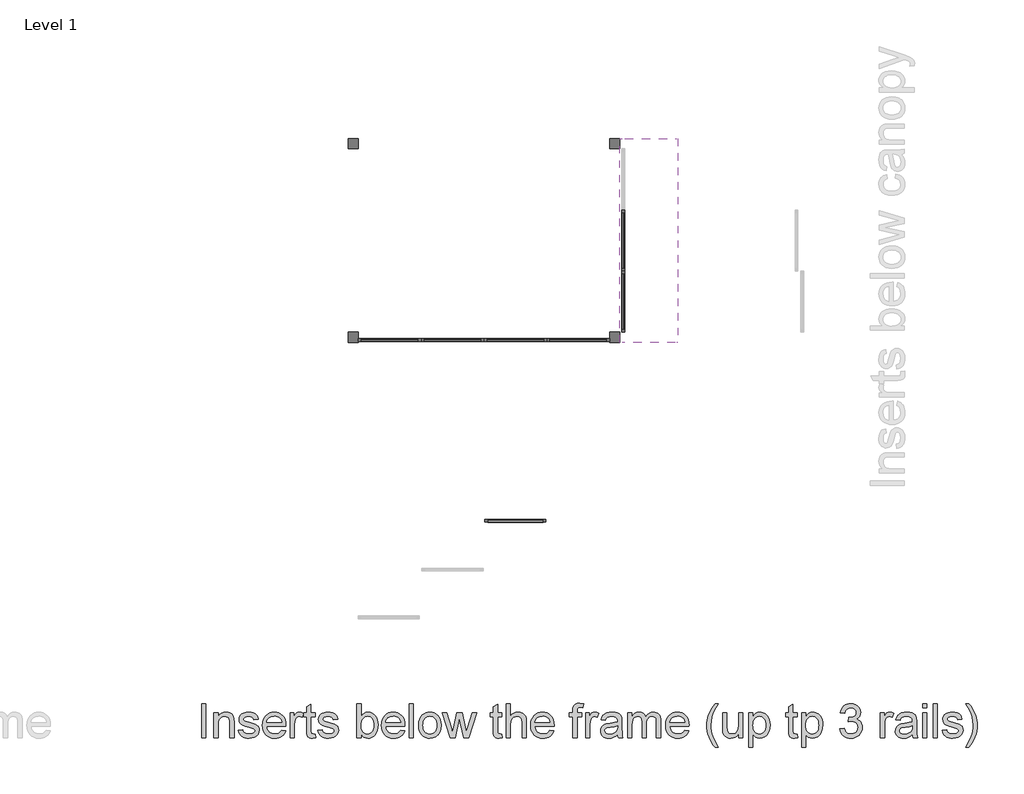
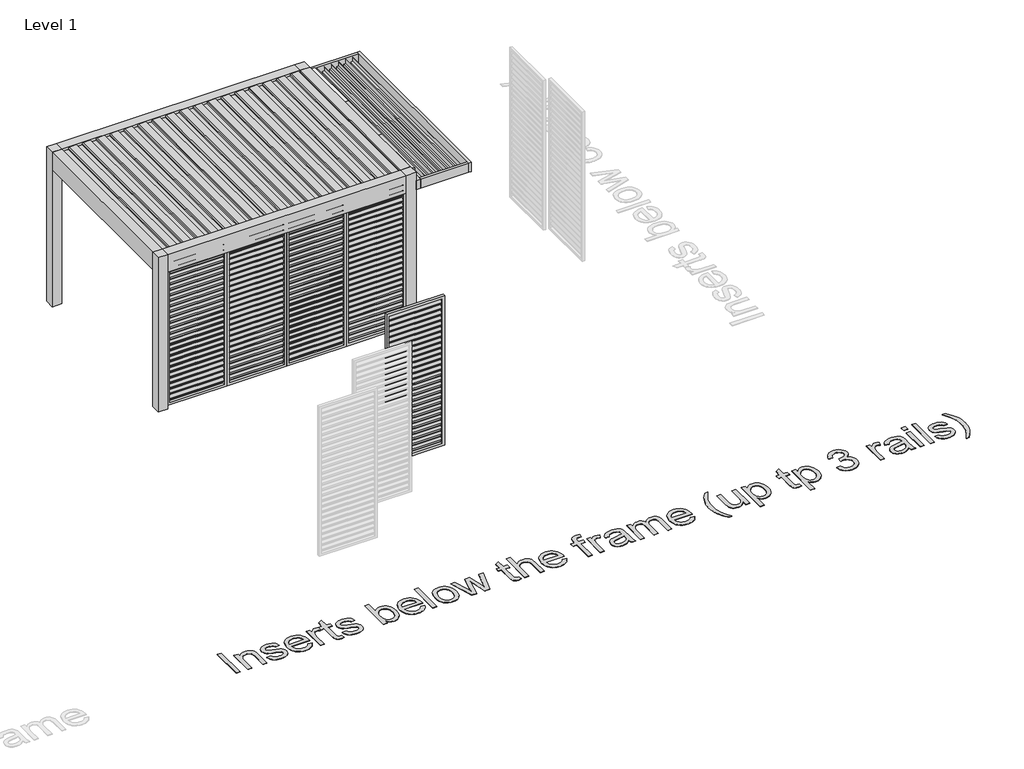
# One storey, part 39 of 80: 10 proxies.
"""IFC4 building model written with IfcOpenShell, lengths in millimetres."""

from ifc_helpers import new_model, si_unit, origin, origin_with_axes, place, context, project, spatial, polyline, outline, extrude, transform, mapped, element, save
from components import generic_models_3681f2a6, generic_models_eb283adb, generic_models_fa1a9668, generic_models_aca7f397

model = new_model("IFC4")

# Units and contexts
model_context = context("Model", 3, world=origin())
ifc_project = project(units=[si_unit("LENGTHUNIT", "METRE", prefix="MILLI")], contexts=[model_context])

# Site, building, storey
site = spatial("IfcSite", under=ifc_project)
building = spatial("IfcBuilding", under=site)
storey = spatial("IfcBuildingStorey", under=building, Name="Level 1", Elevation=0.0)

# Proxies
placement = place(None, origin())
generic_models_shape = generic_models_3681f2a6(model_context)
element("IfcBuildingElementProxy", 1, Name="Renson_Amani_Canopy : Renson_Amani_Canopy", ObjectType="Renson_Amani_Canopy : Renson_Amani_Canopy", at=placement, inside=storey, context=model_context, shape_type="MappedRepresentation", body=[
    mapped(generic_models_shape, transform((461860.5749426, -41059.318181, 2400.0), x_axis=(0.0, 1.0, 0.0), y_axis=(-1.0, 0.0, 0.0), z_axis=(0.0, 0.0, 1.0))),
])
generic_models_2_shape = generic_models_eb283adb(model_context)
element("IfcBuildingElementProxy", 2, Name="Renson_Amani_Patio_Cover : Renson_Amani_Patio_Cover", ObjectType="Renson_Amani_Patio_Cover : Renson_Amani_Patio_Cover", at=placement, inside=storey, context=model_context, shape_type="MappedRepresentation", body=[
    mapped(generic_models_2_shape, transform((459860.5749426, -39559.318181, 0.0), x_axis=(1.0, 0.0, 0.0), y_axis=(0.0, 1.0, 0.0), z_axis=(0.0, 0.0, 1.0))),
])
generic_models_3_shape = generic_models_fa1a9668(model_context)
element("IfcBuildingElementProxy", 3, Name="Renson_Amani_Loggia_Paro_Aluminium_Fix : Renson_Amani_Loggia_Paro_Aluminium_Fix", ObjectType="Renson_Amani_Loggia_Paro_Aluminium_Fix : Renson_Amani_Loggia_Paro_Aluminium_Fix", at=placement, inside=storey, context=model_context, shape_type="MappedRepresentation", body=[
    mapped(generic_models_3_shape, transform((461910.5749426, -39559.318181, 0.0), x_axis=(0.0, -1.0, 0.0), y_axis=(1.0, 0.0, 0.0), z_axis=(0.0, 0.0, 1.0))),
])
element("IfcBuildingElementProxy", 4, Name="Renson_Amani_Loggia_Paro_Aluminium_Fix : Renson_Amani_Loggia_Paro_Aluminium_Fix", ObjectType="Renson_Amani_Loggia_Paro_Aluminium_Fix : Renson_Amani_Loggia_Paro_Aluminium_Fix", at=placement, inside=storey, context=model_context, shape_type="MappedRepresentation", body=[
    mapped(generic_models_3_shape, transform((461910.5749426, -40459.318181, 0.0), x_axis=(0.0, -1.0, 0.0), y_axis=(1.0, 0.0, 0.0), z_axis=(0.0, 0.0, 1.0))),
])
element("IfcBuildingElementProxy", 5, Name="Renson_Amani_Loggia_Paro_Aluminium_Fix : Renson_Amani_Loggia_Paro_Aluminium_Fix", ObjectType="Renson_Amani_Loggia_Paro_Aluminium_Fix : Renson_Amani_Loggia_Paro_Aluminium_Fix", at=placement, inside=storey, context=model_context, shape_type="MappedRepresentation", body=[
    mapped(generic_models_3_shape, transform((460323.5579528, -43687.443424, 0.0), x_axis=(1.0, 0.0, 0.0), y_axis=(0.0, 1.0, 0.0), z_axis=(0.0, 0.0, 1.0))),
])
generic_models_4_shape = generic_models_aca7f397(model_context)
element("IfcBuildingElementProxy", 6, Name="Renson_Amani_Loggia_Paro_Aluminium_Fix : Renson_Amani_Loggia_Paro_Aluminium_Fix", ObjectType="Renson_Amani_Loggia_Paro_Aluminium_Fix : Renson_Amani_Loggia_Paro_Aluminium_Fix", at=placement, inside=storey, context=model_context, shape_type="MappedRepresentation", body=[
    mapped(generic_models_4_shape, transform((458473.0749426, -41025.318181, 0.0), x_axis=(1.0, 0.0, 0.0), y_axis=(0.0, 1.0, 0.0), z_axis=(0.0, 0.0, 1.0))),
])
element("IfcBuildingElementProxy", 7, Name="Renson_Amani_Loggia_Paro_Aluminium_Fix : Renson_Amani_Loggia_Paro_Aluminium_Fix", ObjectType="Renson_Amani_Loggia_Paro_Aluminium_Fix : Renson_Amani_Loggia_Paro_Aluminium_Fix", at=placement, inside=storey, context=model_context, shape_type="MappedRepresentation", body=[
    mapped(generic_models_4_shape, transform((459398.0749426, -41025.318181, 0.0), x_axis=(1.0, 0.0, 0.0), y_axis=(0.0, 1.0, 0.0), z_axis=(0.0, 0.0, 1.0))),
])
element("IfcBuildingElementProxy", 8, Name="Renson_Amani_Loggia_Paro_Aluminium_Fix : Renson_Amani_Loggia_Paro_Aluminium_Fix", ObjectType="Renson_Amani_Loggia_Paro_Aluminium_Fix : Renson_Amani_Loggia_Paro_Aluminium_Fix", at=placement, inside=storey, context=model_context, shape_type="MappedRepresentation", body=[
    mapped(generic_models_4_shape, transform((460323.0749426, -41025.318181, 0.0), x_axis=(1.0, 0.0, 0.0), y_axis=(0.0, 1.0, 0.0), z_axis=(0.0, 0.0, 1.0))),
])
element("IfcBuildingElementProxy", 9, Name="Renson_Amani_Loggia_Paro_Aluminium_Fix : Renson_Amani_Loggia_Paro_Aluminium_Fix", ObjectType="Renson_Amani_Loggia_Paro_Aluminium_Fix : Renson_Amani_Loggia_Paro_Aluminium_Fix", at=placement, inside=storey, context=model_context, shape_type="MappedRepresentation", body=[
    mapped(generic_models_4_shape, transform((461248.0749426, -41025.318181, 0.0), x_axis=(1.0, 0.0, 0.0), y_axis=(0.0, 1.0, 0.0), z_axis=(0.0, 0.0, 1.0))),
])
element("IfcBuildingElementProxy", 10, Name="500mm Arial", ObjectType="500mm Arial", at=placement, inside=storey, context=model_context, shape_type="SweptSolid", body=[
    extrude(outline(polyline([(455706.2654479, -46882.3382736), (455706.2654479, -46380.0567228), (455769.0506417, -46380.0567228), (455769.0506417, -46882.3382736), (455706.2654479, -46882.3382736)])), origin_with_axes(), (0.0, 0.0, 1.0), 5.0),
    extrude(outline(polyline([(455886.7728802, -46882.3382736), (455886.7728802, -46513.4752597), (455949.558074, -46513.4752597), (455949.558074, -46564.9787391), (455971.3704107, -46539.0124016), (455997.5666744, -46520.4650176), (456028.1468653, -46509.3365873), (456063.1109832, -46505.6271105), (456094.0590561, -46508.6161517), (456122.4012981, -46517.5832753), (456146.0377163, -46531.409507), (456162.8683176, -46548.9758723), (456174.2879879, -46570.2363859), (456181.691613, -46595.1450627), (456185.002551, -46655.8455919), (456185.002551, -46882.3382736), (456122.2173571, -46882.3382736), (456122.2173571, -46664.3068778), (456120.408604, -46631.8412917), (456114.9823445, -46608.7566965), (456104.9728886, -46592.2173351), (456089.4145459, -46579.3874505), (456069.4722761, -46571.1560909), (456046.3110388, -46568.4123043), (456027.2463208, -46569.9528102), (456009.5381677, -46574.5743278), (455993.1865794, -46582.276857), (455978.191556, -46593.060398), (455965.6644076, -46608.151224), (455956.7164445, -46628.7756084), (455951.3476667, -46654.9335511), (455949.558074, -46686.6250521), (455949.558074, -46882.3382736), (455886.7728802, -46882.3382736)])), origin_with_axes(), (0.0, 0.0, 1.0), 5.0),
    extrude(outline(polyline([(456247.7877448, -46772.4641843), (456310.5729386, -46764.6160351), (456320.4750957, -46791.4714208), (456339.6356163, -46811.2144212), (456368.1771277, -46823.354527), (456406.2222574, -46827.4012289), (456443.8075346, -46823.6917522), (456470.2337246, -46812.5633218), (456485.8687093, -46796.4378277), (456491.0803709, -46777.7371596), (456485.8380525, -46761.7342928), (456470.1110972, -46749.5328733), (456405.4864934, -46731.6292829), (456348.1888727, -46715.0592647), (456310.9408206, -46700.9111363), (456287.0131625, -46685.4754209), (456269.6767235, -46665.0426417), (456259.1461014, -46640.9157142), (456255.635894, -46614.3975537), (456258.4563227, -46590.0713568), (456266.9176086, -46567.6152267), (456280.2533309, -46547.9182115), (456297.6970688, -46531.8693595), (456315.0335078, -46521.767933), (456337.6122653, -46513.2913187), (456363.7165585, -46507.5431626), (456391.6296049, -46505.6271105), (456432.4951632, -46508.7081222), (456468.0264326, -46517.9511573), (456496.5986009, -46532.4518393), (456516.5868559, -46551.3057916), (456529.8306078, -46575.9079), (456538.1692663, -46607.6530505), (456475.3840725, -46615.5011997), (456467.4592812, -46595.7428709), (456451.7783111, -46580.8589785), (456428.1878782, -46571.5239729), (456396.5346982, -46568.4123043), (456360.4822627, -46571.3860171), (456336.4473056, -46580.3071555), (456322.9276423, -46593.1830254), (456318.4210879, -46608.0209325), (456320.2911547, -46617.6778349), (456325.9013551, -46626.2924049), (456335.4969438, -46633.98727), (456349.3231755, -46640.1492934), (456403.4018288, -46653.5156726), (456495.5562686, -46683.0688595), (456519.8977939, -46697.2016595), (456538.3532073, -46716.5461211), (456549.9874754, -46741.1635579), (456553.8655648, -46771.1152837), (456549.3130251, -46802.0786849), (456535.655406, -46831.2026762), (456513.4138737, -46856.2033235), (456483.1095944, -46874.7966927), (456446.5053359, -46886.3389903), (456405.3638661, -46890.1864228), (456371.572372, -46888.3316844), (456342.0575061, -46882.7674692), (456316.8192684, -46873.4937773), (456295.8576588, -46860.5106085), (456278.7358176, -46843.8792767), (456265.0168849, -46823.6610953), (456254.7008606, -46799.8560646), (456247.7877448, -46772.4641843)])), origin_with_axes(), (0.0, 0.0, 1.0), 5.0),
    extrude(outline(polyline([(456882.7520685, -46772.4641843), (456944.310989, -46780.3123336), (456934.8725166, -46804.9680915), (456922.1307704, -46826.6961218), (456906.0857504, -46845.4964246), (456886.7374568, -46861.3689998), (456864.2851587, -46873.9766224), (456838.9281258, -46882.9820671), (456810.6663579, -46888.3853339), (456779.4998552, -46890.1864228), (456740.5426847, -46887.0785864), (456705.8314856, -46877.755077), (456675.3662579, -46862.2158948), (456649.1470015, -46840.4610398), (456628.0627647, -46813.0959843), (456613.0025955, -46780.7262008), (456603.966494, -46743.3516894), (456600.9544602, -46700.9724499), (456603.9971508, -46657.1561715), (456613.1252228, -46618.5362262), (456628.3386762, -46585.1126141), (456649.6375109, -46556.8853352), (456675.7877894, -46534.4598619), (456705.5555741, -46518.4416667), (456738.9408652, -46508.8307495), (456775.9436625, -46505.6271105), (456811.7546755, -46508.8230853), (456844.1397874, -46518.4110098), (456873.0989982, -46534.390884), (456898.6323079, -46556.7627078), (456919.4751222, -46584.9286731), (456934.3628467, -46618.2909715), (456943.2954814, -46656.8496031), (456946.2730263, -46700.6045679), (456945.9051443, -46717.5271397), (456663.739654, -46717.5271397), (456667.3763208, -46742.5814364), (456674.6075013, -46764.5240646), (456685.4331954, -46783.3550242), (456699.8534032, -46799.0743153), (456717.071047, -46811.46734), (456736.2890491, -46820.3195005), (456757.5074096, -46825.6307968), (456780.7261285, -46827.4012289), (456814.1420764, -46824.1209478), (456842.285049, -46814.2801045), (456865.1550464, -46797.2655622), (456882.7520685, -46772.4641843)]), holes=[polyline([(456663.739654, -46654.7419459), (456883.4878325, -46654.7419459), (456874.9958897, -46621.5712526), (456858.3492295, -46597.842864), (456841.2273883, -46584.9669941), (456821.7449709, -46575.7699442), (456799.9019775, -46570.2517143), (456775.6984079, -46568.4123043), (456733.37665, -46574.2830879), (456714.9633897, -46581.6215672), (456698.3818752, -46591.8954384), (456684.4675052, -46604.6295203), (456674.0556783, -46619.3486323), (456667.1463946, -46636.0527741), (456663.739654, -46654.7419459)])]), origin_with_axes(), (0.0, 0.0, 1.0), 5.0),
    extrude(outline(polyline([(457377.921234, -46829.9764029), (457385.7693832, -46884.1776835), (457338.8031152, -46890.1864228), (457308.6674484, -46887.580592), (457286.1959899, -46879.7630996), (457270.3157504, -46867.7149643), (457259.9537409, -46852.4172046), (457254.2515699, -46826.1442988), (457252.3508463, -46781.1707249), (457252.3508463, -46576.2604536), (457205.2619509, -46576.2604536), (457205.2619509, -46525.0022289), (457205.2619509, -46513.4752597), (457252.3508463, -46513.4752597), (457252.3508463, -46423.8346802), (457315.1360401, -46386.9238534), (457315.1360401, -46513.4752597), (457377.921234, -46513.4752597), (457377.921234, -46576.2604536), (457315.1360401, -46576.2604536), (457315.1360401, -46779.3313149), (457318.4469781, -46811.7049305), (457329.1768696, -46823.170586), (457350.575339, -46827.4012289), (457377.921234, -46829.9764029)])), origin_with_axes(), (0.0, 0.0, 1.0), 5.0),
    extrude(outline(polyline([(457009.0582202, -46882.3382736), (457009.0582202, -46513.4752597), (457063.9952648, -46513.4752597), (457063.9952648, -46568.0444223), (457084.2900882, -46536.4065708), (457102.9907563, -46517.7672163), (457121.752738, -46508.662137), (457142.2315024, -46505.6271105), (457173.501472, -46510.4708901), (457205.2619509, -46525.0022289), (457184.2926772, -46581.2881742), (457162.2197575, -46571.6312718), (457140.1468378, -46568.4123043), (457121.4001844, -46571.5086445), (457104.6462252, -46580.7976648), (457091.1112335, -46595.5742583), (457082.0214825, -46615.1333177), (457074.3879311, -46650.2047346), (457071.843414, -46688.4644621), (457071.843414, -46882.3382736), (457009.0582202, -46882.3382736)])), origin_with_axes(), (0.0, 0.0, 1.0), 5.0),
    extrude(outline(polyline([(457417.1619801, -46772.4641843), (457479.947174, -46764.6160351), (457489.849331, -46791.4714208), (457509.0098516, -46811.2144212), (457537.5513631, -46823.354527), (457575.5964927, -46827.4012289), (457613.1817699, -46823.6917522), (457639.6079599, -46812.5633218), (457655.2429447, -46796.4378277), (457660.4546063, -46777.7371596), (457655.2122879, -46761.7342928), (457639.4853326, -46749.5328733), (457574.8607287, -46731.6292829), (457517.563108, -46715.0592647), (457480.315056, -46700.9111363), (457456.3873979, -46685.4754209), (457439.0509589, -46665.0426417), (457428.5203367, -46640.9157142), (457425.0101294, -46614.3975537), (457427.830558, -46590.0713568), (457436.2918439, -46567.6152267), (457449.6275662, -46547.9182115), (457467.0713042, -46531.8693595), (457484.4077432, -46521.767933), (457506.9865006, -46513.2913187), (457533.0907939, -46507.5431626), (457561.0038403, -46505.6271105), (457601.8693986, -46508.7081222), (457637.4006679, -46517.9511573), (457665.9728362, -46532.4518393), (457685.9610913, -46551.3057916), (457699.2048431, -46575.9079), (457707.5435017, -46607.6530505), (457644.7583078, -46615.5011997), (457636.8335165, -46595.7428709), (457621.1525465, -46580.8589785), (457597.5621135, -46571.5239729), (457565.9089335, -46568.4123043), (457529.856498, -46571.3860171), (457505.821541, -46580.3071555), (457492.3018777, -46593.1830254), (457487.7953232, -46608.0209325), (457489.66539, -46617.6778349), (457495.2755904, -46626.2924049), (457504.8711792, -46633.98727), (457518.6974108, -46640.1492934), (457572.7760641, -46653.5156726), (457664.9305039, -46683.0688595), (457689.2720292, -46697.2016595), (457707.7274427, -46716.5461211), (457719.3617108, -46741.1635579), (457723.2398001, -46771.1152837), (457718.6872604, -46802.0786849), (457705.0296414, -46831.2026762), (457682.7881091, -46856.2033235), (457652.4838297, -46874.7966927), (457615.8795712, -46886.3389903), (457574.7381014, -46890.1864228), (457540.9466073, -46888.3316844), (457511.4317414, -46882.7674692), (457486.1935037, -46873.4937773), (457465.2318942, -46860.5106085), (457448.110053, -46843.8792767), (457434.3911202, -46823.6610953), (457424.075096, -46799.8560646), (457417.1619801, -46772.4641843)])), origin_with_axes(), (0.0, 0.0, 1.0), 5.0),
    extrude(outline(polyline([(458052.8620678, -46882.3382736), (457990.076874, -46882.3382736), (457990.076874, -46380.0567228), (458052.8620678, -46380.0567228), (458052.8620678, -46566.3276397), (458073.5094448, -46539.7711582), (458096.8239662, -46520.8022428), (458122.8056321, -46509.4208936), (458151.4544425, -46505.6271105), (458183.7974013, -46509.0453474), (458214.3622637, -46519.300058), (458241.4015903, -46535.7474489), (458263.1679417, -46557.7437265), (458280.2284692, -46585.074293), (458293.1503243, -46617.5245507), (458301.2897135, -46653.7455988), (458304.0028432, -46692.3885367), (458301.1939109, -46736.9789002), (458292.7671139, -46776.204318), (458278.7224523, -46810.0647899), (458259.0599261, -46838.5603161), (458235.4579968, -46861.1467378), (458209.5951262, -46877.2798961), (458181.4713141, -46886.9597911), (458151.0865605, -46890.1864228), (458121.4950525, -46886.0247577), (458095.2604677, -46873.5397625), (458072.3828062, -46852.7314372), (458052.8620678, -46823.5997817), (458052.8620678, -46882.3382736)]), holes=[polyline([(458052.8620678, -46695.3315927), (458057.1540244, -46747.6934633), (458062.5189702, -46767.5284342), (458070.0298942, -46783.1327622), (458085.2433476, -46802.5002164), (458102.924676, -46816.3341123), (458123.0738794, -46824.6344498), (458145.6909579, -46827.4012289), (458164.4682681, -46825.3625496), (458181.9273344, -46819.2465114), (458198.068157, -46809.0531144), (458212.8907357, -46794.7823587), (458225.2837604, -46776.4725652), (458234.1359209, -46754.1620551), (458239.4472172, -46727.8508282), (458241.2176493, -46697.5388847), (458239.5200272, -46666.6521255), (458234.4271608, -46640.0879797), (458225.9390502, -46617.8464474), (458214.0556954, -46599.9275286), (458199.7657791, -46586.139618), (458184.0579843, -46576.2911104), (458166.932311, -46570.3820059), (458148.3887592, -46568.4123043), (458129.611449, -46570.4509837), (458112.1523827, -46576.5670219), (458096.0115602, -46586.7604189), (458081.1889814, -46601.0311746), (458068.7959567, -46619.1570271), (458059.9437962, -46640.9157142), (458054.6324999, -46666.3072361), (458052.8620678, -46695.3315927)])]), origin_with_axes(), (0.0, 0.0, 1.0), 5.0),
    extrude(outline(polyline([(458632.8893469, -46772.4641843), (458694.4482674, -46780.3123336), (458685.009795, -46804.9680915), (458672.2680488, -46826.6961218), (458656.2230288, -46845.4964246), (458636.8747351, -46861.3689998), (458614.4224371, -46873.9766224), (458589.0654042, -46882.9820671), (458560.8036363, -46888.3853339), (458529.6371336, -46890.1864228), (458490.6799631, -46887.0785864), (458455.968764, -46877.755077), (458425.5035363, -46862.2158948), (458399.2842799, -46840.4610398), (458378.2000431, -46813.0959843), (458363.1398739, -46780.7262008), (458354.1037724, -46743.3516894), (458351.0917386, -46700.9724499), (458354.1344292, -46657.1561715), (458363.2625012, -46618.5362262), (458378.4759546, -46585.1126141), (458399.7747893, -46556.8853352), (458425.9250677, -46534.4598619), (458455.6928525, -46518.4416667), (458489.0781436, -46508.8307495), (458526.0809409, -46505.6271105), (458561.8919539, -46508.8230853), (458594.2770658, -46518.4110098), (458623.2362766, -46534.390884), (458648.7695863, -46556.7627078), (458669.6124006, -46584.9286731), (458684.5001251, -46618.2909715), (458693.4327598, -46656.8496031), (458696.4103047, -46700.6045679), (458696.0424227, -46717.5271397), (458413.8769324, -46717.5271397), (458417.5135992, -46742.5814364), (458424.7447797, -46764.5240646), (458435.5704738, -46783.3550242), (458449.9906816, -46799.0743153), (458467.2083254, -46811.46734), (458486.4263275, -46820.3195005), (458507.644688, -46825.6307968), (458530.8634069, -46827.4012289), (458564.2793548, -46824.1209478), (458592.4223274, -46814.2801045), (458615.2923248, -46797.2655622), (458632.8893469, -46772.4641843)]), holes=[polyline([(458413.8769324, -46654.7419459), (458633.6251109, -46654.7419459), (458625.1331681, -46621.5712526), (458608.4865079, -46597.842864), (458591.3646667, -46584.9669941), (458571.8822493, -46575.7699442), (458550.0392559, -46570.2517143), (458525.8356863, -46568.4123043), (458483.5139284, -46574.2830879), (458465.1006681, -46581.6215672), (458448.5191536, -46591.8954384), (458434.6047836, -46604.6295203), (458424.1929567, -46619.3486323), (458417.283673, -46636.0527741), (458413.8769324, -46654.7419459)])]), origin_with_axes(), (0.0, 0.0, 1.0), 5.0),
    extrude(outline(polyline([(458759.1954985, -46882.3382736), (458759.1954985, -46380.0567228), (458821.9806924, -46380.0567228), (458821.9806924, -46882.3382736), (458759.1954985, -46882.3382736)])), origin_with_axes(), (0.0, 0.0, 1.0), 5.0),
    extrude(outline(polyline([(458900.4621847, -46697.9067666), (458903.8574289, -46650.1357567), (458914.0431617, -46608.9712943), (458931.0193829, -46574.4133794), (458954.7860926, -46546.462012), (458978.7137507, -46528.5967426), (459005.1246123, -46515.8358359), (459034.0186774, -46508.1792918), (459065.3959459, -46505.6271105), (459100.034335, -46508.7349469), (459131.3541219, -46518.0584563), (459159.3553067, -46533.5976384), (459184.0378893, -46555.3524935), (459204.1832606, -46582.5872575), (459218.5728116, -46614.5661663), (459227.2065422, -46651.2892201), (459230.0844524, -46692.7564187), (459224.9954181, -46756.185406), (459218.6341253, -46782.2207214), (459209.7283153, -46804.4699179), (459198.3891192, -46823.6879201), (459184.727668, -46840.6296524), (459168.7439618, -46855.2951148), (459150.4380004, -46867.6843074), (459109.7103979, -46884.560894), (459065.3959459, -46890.1864228), (459030.251719, -46887.0900827), (458998.6406922, -46877.8010623), (458970.5628653, -46862.3193617), (458946.0182384, -46840.6449808), (458926.0874649, -46813.1458016), (458911.8511981, -46780.1897062), (458903.3094381, -46741.7766946), (458900.4621847, -46697.9067666)]), holes=[polyline([(458963.2473785, -46697.7841393), (458965.0637959, -46728.2378707), (458970.5130479, -46754.6065792), (458979.5951347, -46776.8902646), (458992.3100562, -46795.088927), (459007.7764284, -46809.2255591), (459025.1128674, -46819.3231535), (459044.3193732, -46825.3817101), (459065.3959459, -46827.4012289), (459086.3652196, -46825.3702138), (459105.4950833, -46819.2771682), (459122.7855371, -46809.1220923), (459138.2365809, -46794.904986), (459150.9515024, -46776.5262147), (459160.0335891, -46753.8861436), (459165.4828412, -46726.9847727), (459167.2992585, -46695.822102), (459165.4713449, -46666.3340608), (459159.9876039, -46640.6551311), (459150.8480356, -46618.785313), (459138.0526399, -46600.7246063), (459122.5441146, -46586.5879742), (459105.2651571, -46576.4903798), (459086.2157675, -46570.4318232), (459065.3959459, -46568.4123043), (459044.3193732, -46570.424159), (459025.1128674, -46576.459723), (459007.7764284, -46586.5189963), (458992.3100562, -46600.6019789), (458979.5951347, -46618.7469919), (458970.5130479, -46640.9923563), (458965.0637959, -46667.3380721), (458963.2473785, -46697.7841393)])]), origin_with_axes(), (0.0, 0.0, 1.0), 5.0),
    extrude(outline(polyline([(459361.908834, -46882.3382736), (459249.7048254, -46513.4752597), (459314.9425659, -46513.4752597), (459378.5861511, -46728.6862269), (459397.5933875, -46805.5735639), (459413.1670586, -46731.5066555), (459463.8121466, -46513.4752597), (459538.614819, -46513.4752597), (459589.0146523, -46730.8935189), (459602.8715408, -46797.9706693), (459622.7371686, -46727.2146989), (459686.5033811, -46513.4752597), (459751.9863762, -46513.4752597), (459638.9239763, -46882.3382736), (459563.017658, -46882.3382736), (459514.8251166, -46666.0236604), (459500.8456008, -46598.5786279), (459438.6735436, -46882.3382736), (459361.908834, -46882.3382736)])), origin_with_axes(), (0.0, 0.0, 1.0), 5.0),
    extrude(outline(polyline([(460124.7734646, -46829.9764029), (460132.6216139, -46884.1776835), (460085.6553458, -46890.1864228), (460055.519679, -46887.580592), (460033.0482205, -46879.7630996), (460017.1679811, -46867.7149643), (460006.8059715, -46852.4172046), (460001.1038006, -46826.1442988), (459999.203077, -46781.1707249), (459999.203077, -46576.2604536), (459952.1141816, -46576.2604536), (459952.1141816, -46513.4752597), (459999.203077, -46513.4752597), (459999.203077, -46423.8346802), (460061.9882708, -46386.9238534), (460061.9882708, -46513.4752597), (460124.7734646, -46513.4752597), (460124.7734646, -46576.2604536), (460061.9882708, -46576.2604536), (460061.9882708, -46779.3313149), (460065.2992088, -46811.7049305), (460076.0291003, -46823.170586), (460097.4275697, -46827.4012289), (460124.7734646, -46829.9764029)])), origin_with_axes(), (0.0, 0.0, 1.0), 5.0),
    extrude(outline(polyline([(460187.5586585, -46882.3382736), (460187.5586585, -46380.0567228), (460250.3438523, -46380.0567228), (460250.3438523, -46564.7334844), (460273.4054549, -46538.8744458), (460299.3028145, -46520.403704), (460328.0359312, -46509.3212589), (460359.6048049, -46505.6271105), (460397.5273072, -46509.658484), (460430.1155206, -46521.7526046), (460455.7752898, -46540.9591105), (460472.9124594, -46566.3276397), (460482.5693618, -46601.1844587), (460485.7883292, -46648.855834), (460485.7883292, -46882.3382736), (460423.0031354, -46882.3382736), (460423.0031354, -46655.3550825), (460418.0060716, -46616.0530227), (460411.7597419, -46601.046503), (460403.0148803, -46589.1363234), (460391.9784205, -46580.0695651), (460378.857296, -46573.5933091), (460346.3610531, -46568.4123043), (460319.8275642, -46571.9071833), (460294.9188874, -46582.3918202), (460274.2868388, -46598.8545394), (460260.5832345, -46620.2836657), (460252.9036979, -46648.7638635), (460250.3438523, -46686.3797975), (460250.3438523, -46882.3382736), (460187.5586585, -46882.3382736)])), origin_with_axes(), (0.0, 0.0, 1.0), 5.0),
    extrude(outline(polyline([(460830.3711314, -46772.4641843), (460891.9300519, -46780.3123336), (460882.4915795, -46804.9680915), (460869.7498333, -46826.6961218), (460853.7048134, -46845.4964246), (460834.3565197, -46861.3689998), (460811.9042217, -46873.9766224), (460786.5471887, -46882.9820671), (460758.2854209, -46888.3853339), (460727.1189181, -46890.1864228), (460688.1617476, -46887.0785864), (460653.4505485, -46877.755077), (460622.9853208, -46862.2158948), (460596.7660645, -46840.4610398), (460575.6818276, -46813.0959843), (460560.6216584, -46780.7262008), (460551.5855569, -46743.3516894), (460548.5735231, -46700.9724499), (460551.6162138, -46657.1561715), (460560.7442858, -46618.5362262), (460575.9577391, -46585.1126141), (460597.2565738, -46556.8853352), (460623.4068523, -46534.4598619), (460653.174637, -46518.4416667), (460686.5599281, -46508.8307495), (460723.5627255, -46505.6271105), (460759.3737384, -46508.8230853), (460791.7588503, -46518.4110098), (460820.7180611, -46534.390884), (460846.2513708, -46556.7627078), (460867.0941851, -46584.9286731), (460881.9819096, -46618.2909715), (460890.9145443, -46656.8496031), (460893.8920892, -46700.6045679), (460893.5242072, -46717.5271397), (460611.3587169, -46717.5271397), (460614.9953837, -46742.5814364), (460622.2265642, -46764.5240646), (460633.0522583, -46783.3550242), (460647.4724661, -46799.0743153), (460664.6901099, -46811.46734), (460683.9081121, -46820.3195005), (460705.1264726, -46825.6307968), (460728.3451914, -46827.4012289), (460761.7611393, -46824.1209478), (460789.9041119, -46814.2801045), (460812.7741093, -46797.2655622), (460830.3711314, -46772.4641843)]), holes=[polyline([(460611.3587169, -46654.7419459), (460831.1068954, -46654.7419459), (460822.6149527, -46621.5712526), (460805.9682924, -46597.842864), (460788.8464512, -46584.9669941), (460769.3640339, -46575.7699442), (460747.5210404, -46570.2517143), (460723.3174708, -46568.4123043), (460680.9957129, -46574.2830879), (460662.5824527, -46581.6215672), (460646.0009381, -46591.8954384), (460632.0865681, -46604.6295203), (460621.6747412, -46619.3486323), (460614.7654575, -46636.0527741), (460611.3587169, -46654.7419459)])]), origin_with_axes(), (0.0, 0.0, 1.0), 5.0),
    extrude(outline(polyline([(461168.5773123, -46882.3382736), (461168.5773123, -46576.2604536), (461113.6402677, -46576.2604536), (461113.6402677, -46513.4752597), (461168.5773123, -46513.4752597), (461168.5773123, -46476.3191782), (461170.2327813, -46445.5703748), (461175.1991882, -46423.9573076), (461187.8298034, -46403.0800043), (461207.3275491, -46386.5559714), (461234.6121304, -46375.795423), (461270.6032523, -46372.2085736), (461327.8702162, -46379.0757042), (461318.6731663, -46437.9368234), (461282.4981035, -46434.9937674), (461258.631759, -46437.5995982), (461242.950789, -46445.4170906), (461234.2595768, -46460.3469683), (461231.3625061, -46484.2899548), (461231.3625061, -46513.4752597), (461301.9958492, -46513.4752597), (461301.9958492, -46576.2604536), (461231.3625061, -46576.2604536), (461231.3625061, -46882.3382736), (461168.5773123, -46882.3382736)])), origin_with_axes(), (0.0, 0.0, 1.0), 5.0),
    extrude(outline(polyline([(461356.9328938, -46882.3382736), (461356.9328938, -46513.4752597), (461411.8699384, -46513.4752597), (461411.8699384, -46568.0444223), (461432.1647618, -46536.4065708), (461450.8654299, -46517.7672163), (461469.6274117, -46508.662137), (461490.1061761, -46505.6271105), (461521.3761457, -46510.4708901), (461553.1366246, -46525.0022289), (461532.1673509, -46581.2881742), (461510.0944311, -46571.6312718), (461488.0215114, -46568.4123043), (461469.2748581, -46571.5086445), (461452.5208989, -46580.7976648), (461438.9859072, -46595.5742583), (461429.8961562, -46615.1333177), (461422.2626048, -46650.2047346), (461419.7180877, -46688.4644621), (461419.7180877, -46882.3382736), (461356.9328938, -46882.3382736)])), origin_with_axes(), (0.0, 0.0, 1.0), 5.0),
    extrude(outline(polyline([(461827.8218476, -46835.2493782), (461797.8241366, -46860.970461), (461766.9373774, -46877.8010623), (461734.456463, -46887.0900827), (461699.676286, -46890.1864228), (461671.7210865, -46888.3240202), (461647.2071164, -46882.7368124), (461626.1343759, -46873.4247994), (461608.5028649, -46860.3879812), (461594.5808306, -46844.4540923), (461584.6365204, -46826.4508671), (461578.6699343, -46806.3783058), (461576.6810723, -46784.2364082), (461579.6854419, -46758.208757), (461588.6985508, -46734.5723388), (461602.6014245, -46714.3388291), (461620.2750887, -46698.5199033), (461641.045093, -46686.5637385), (461664.2369871, -46677.9185116), (461718.5608951, -46668.476207), (461782.7563032, -46658.5433932), (461827.4539657, -46646.8937966), (461827.8218476, -46632.9142808), (461823.4992342, -46604.8939355), (461810.5313939, -46586.5611494), (461797.4562546, -46578.6210297), (461781.5300299, -46572.9495156), (461741.1243241, -46568.4123043), (461703.7229879, -46571.4320024), (461677.6033663, -46580.4910965), (461659.7917463, -46597.2450557), (461647.3144153, -46623.349349), (461584.5292215, -46615.5011997), (461595.4277256, -46581.1655468), (461611.6911755, -46554.1875339), (461634.8370843, -46533.5554853), (461666.3829654, -46518.2577257), (461704.9645897, -46508.7847643), (461749.217728, -46505.6271105), (461791.6621132, -46508.4168823), (461825.3079873, -46516.7861977), (461850.6765166, -46529.3708276), (461868.2888671, -46544.806543), (461879.9691205, -46563.8904215), (461887.5413582, -46587.4195408), (461890.6070415, -46642.3565854), (461890.6070415, -46720.4701957), (461893.7953521, -46829.5472073), (461898.5165044, -46856.5098918), (461906.30334, -46882.3382736), (461843.5181461, -46882.3382736), (461833.4627049, -46860.5106085), (461827.8218476, -46835.2493782)]), holes=[polyline([(461827.8218476, -46709.6789905), (461785.6380455, -46720.1329705), (461726.5316716, -46728.9314816), (461672.514332, -46739.1095501), (461658.4581741, -46746.0686512), (461648.0501793, -46755.6642399), (461641.6122444, -46767.1605522), (461639.4662661, -46779.8218242), (461644.1414331, -46798.4918355), (461658.1669342, -46813.7895951), (461681.236201, -46823.9983205), (461713.0426652, -46827.4012289), (461746.7651814, -46823.6457669), (461776.563623, -46812.3793808), (461800.7212073, -46795.7787058), (461817.5211518, -46776.020377), (461824.9707622, -46755.6642399), (461827.4539657, -46727.4599536), (461827.8218476, -46709.6789905)])]), origin_with_axes(), (0.0, 0.0, 1.0), 5.0),
    extrude(outline(polyline([(461976.936683, -46882.3382736), (461976.936683, -46513.4752597), (462039.7218769, -46513.4752597), (462039.7218769, -46574.1757889), (462058.606486, -46546.2933994), (462082.8866976, -46524.4504059), (462111.7347774, -46510.3329344), (462144.3229908, -46505.6271105), (462179.2411235, -46510.4249049), (462207.230812, -46524.8182879), (462228.1387721, -46547.8568979), (462241.8117196, -46578.5903729), (462264.6970453, -46546.6689456), (462290.8013386, -46523.8679261), (462320.1245993, -46510.1873144), (462352.6668274, -46505.6271105), (462377.8015983, -46507.524002), (462399.8630217, -46513.2146767), (462418.8510976, -46522.6991343), (462434.765826, -46535.9773751), (462447.3466238, -46553.2026831), (462456.332908, -46574.5283425), (462461.7246785, -46599.9543533), (462463.5219353, -46629.4807155), (462463.5219353, -46882.3382736), (462400.7367415, -46882.3382736), (462400.7367415, -46656.4587285), (462399.2805419, -46625.1427737), (462394.9119432, -46604.0355442), (462386.7265688, -46589.5808475), (462373.8200422, -46578.2224909), (462357.2193671, -46570.864851), (462337.9515476, -46568.4123043), (462320.1590882, -46569.983467), (462303.9377915, -46574.6969551), (462289.2876574, -46582.5527685), (462276.2086861, -46593.5509073), (462265.4519698, -46608.0132683), (462257.7686011, -46626.2617481), (462253.1585798, -46648.2963468), (462251.6219061, -46674.1170643), (462251.6219061, -46882.3382736), (462188.8367122, -46882.3382736), (462188.8367122, -46649.4689706), (462185.2038775, -46613.9683581), (462174.3053734, -46588.6458141), (462165.8785765, -46579.7936536), (462155.1295244, -46573.4706818), (462126.6646551, -46568.4123043), (462102.4764139, -46571.784556), (462080.1888963, -46581.9013108), (462061.7947966, -46598.5173143), (462049.2868087, -46621.3873117), (462042.1131098, -46653.1171337), (462039.7218769, -46696.3126113), (462039.7218769, -46882.3382736), (461976.936683, -46882.3382736)])), origin_with_axes(), (0.0, 0.0, 1.0), 5.0),
    extrude(outline(polyline([(462815.9528867, -46772.4641843), (462877.5118072, -46780.3123336), (462868.0733348, -46804.9680915), (462855.3315886, -46826.6961218), (462839.2865687, -46845.4964246), (462819.938275, -46861.3689998), (462797.485977, -46873.9766224), (462772.128944, -46882.9820671), (462743.8671762, -46888.3853339), (462712.7006734, -46890.1864228), (462673.7435029, -46887.0785864), (462639.0323038, -46877.755077), (462608.5670761, -46862.2158948), (462582.3478198, -46840.4610398), (462561.2635829, -46813.0959843), (462546.2034137, -46780.7262008), (462537.1673122, -46743.3516894), (462534.1552784, -46700.9724499), (462537.1979691, -46657.1561715), (462546.3260411, -46618.5362262), (462561.5394944, -46585.1126141), (462582.8383291, -46556.8853352), (462608.9886076, -46534.4598619), (462638.7563923, -46518.4416667), (462672.1416834, -46508.8307495), (462709.1444808, -46505.6271105), (462744.9554937, -46508.8230853), (462777.3406056, -46518.4110098), (462806.2998164, -46534.390884), (462831.8331261, -46556.7627078), (462852.6759404, -46584.9286731), (462867.5636649, -46618.2909715), (462876.4962996, -46656.8496031), (462879.4738445, -46700.6045679), (462879.1059625, -46717.5271397), (462596.9404722, -46717.5271397), (462600.577139, -46742.5814364), (462607.8083195, -46764.5240646), (462618.6340136, -46783.3550242), (462633.0542214, -46799.0743153), (462650.2718652, -46811.46734), (462669.4898674, -46820.3195005), (462690.7082279, -46825.6307968), (462713.9269467, -46827.4012289), (462747.3428946, -46824.1209478), (462775.4858672, -46814.2801045), (462798.3558646, -46797.2655622), (462815.9528867, -46772.4641843)]), holes=[polyline([(462596.9404722, -46654.7419459), (462816.6886507, -46654.7419459), (462808.196708, -46621.5712526), (462791.5500477, -46597.842864), (462774.4282065, -46584.9669941), (462754.9457892, -46575.7699442), (462733.1027957, -46570.2517143), (462708.8992261, -46568.4123043), (462666.5774682, -46574.2830879), (462648.164208, -46581.6215672), (462631.5826934, -46591.8954384), (462617.6683234, -46604.6295203), (462607.2564965, -46619.3486323), (462600.3472128, -46636.0527741), (462596.9404722, -46654.7419459)])]), origin_with_axes(), (0.0, 0.0, 1.0), 5.0),
    extrude(outline(polyline([(463264.0331568, -47023.6049597), (463238.6876202, -46990.8098127), (463215.380763, -46955.3321928), (463174.8830867, -46876.3295343), (463158.9491977, -46833.7625218), (463147.5678485, -46790.4290884), (463140.739039, -46746.3292343), (463138.4627691, -46701.4629593), (463140.1642234, -46662.0306079), (463145.268586, -46623.4413195), (463153.7758572, -46585.6950939), (463165.6860368, -46548.7919313), (463183.7888966, -46506.4701734), (463206.2143699, -46464.240386), (463232.9624566, -46422.1025692), (463264.0331568, -46380.0567228), (463311.1220522, -46380.0567228), (463252.3835603, -46479.5074888), (463232.3339916, -46526.7190116), (463217.0668888, -46575.8925716), (463205.2026944, -46638.7084223), (463201.247963, -46701.8308413), (463202.9647456, -46742.0794308), (463208.1150935, -46782.3203561), (463216.6990068, -46822.5536172), (463228.7164853, -46862.7792142), (463263.0521382, -46943.2074153), (463311.1220522, -47023.6049597), (463264.0331568, -47023.6049597)])), origin_with_axes(), (0.0, 0.0, 1.0), 5.0),
    extrude(outline(polyline([(463609.351723, -46882.3382736), (463609.351723, -46818.9399431), (463586.6350098, -46850.1102779), (463560.1781629, -46872.3748029), (463529.9811825, -46885.7335178), (463496.0440684, -46890.1864228), (463465.4638776, -46887.0594258), (463436.9990082, -46877.678435), (463413.1173354, -46863.5762918), (463396.2867341, -46846.285838), (463384.9590343, -46825.2859075), (463377.586066, -46800.055334), (463373.907246, -46741.6847241), (463373.907246, -46513.4752597), (463436.6924399, -46513.4752597), (463436.6924399, -46712.1315371), (463440.4938872, -46776.1430043), (463449.6449518, -46797.4954884), (463465.3259218, -46813.7282815), (463486.494465, -46823.9829921), (463512.1082489, -46827.4012289), (463539.1935608, -46823.90635), (463564.5314332, -46813.4217131), (463585.4240649, -46796.9130086), (463599.1736544, -46775.3459266), (463606.8072058, -46745.8080681), (463609.351723, -46705.3870339), (463609.351723, -46513.4752597), (463672.1369168, -46513.4752597), (463672.1369168, -46882.3382736), (463609.351723, -46882.3382736)])), origin_with_axes(), (0.0, 0.0, 1.0), 5.0),
    extrude(outline(polyline([(463758.4665583, -47023.6049597), (463758.4665583, -46513.4752597), (463821.2517522, -46513.4752597), (463821.2517522, -46575.0341803), (463841.7305166, -46544.6685872), (463864.6618276, -46522.9788779), (463891.3945859, -46509.9650524), (463923.2776922, -46505.6271105), (463945.1743351, -46507.1446237), (463965.7374058, -46511.6971634), (463984.9669042, -46519.2847296), (464002.8628305, -46529.9073222), (464019.0343098, -46543.2890298), (464033.0904677, -46559.1539408), (464054.8568191, -46598.3333733), (464068.0086004, -46644.5945342), (464072.3925276, -46695.086338), (464067.441449, -46748.7817809), (464052.5882135, -46796.8057097), (464041.567082, -46818.0815517), (464028.3080018, -46836.7209062), (464012.8109727, -46852.723773), (463995.0759949, -46866.0901521), (463956.3717433, -46884.1623551), (463915.6747976, -46890.1864228), (463886.8113894, -46886.1550493), (463861.0443213, -46874.0609287), (463838.98673, -46855.8047847), (463821.2517522, -46833.2873409), (463821.2517522, -47023.6049597), (463758.4665583, -47023.6049597)]), holes=[polyline([(463821.2517522, -46700.8498226), (463822.9493743, -46731.1081167), (463828.0422407, -46757.1357679), (463836.5303513, -46778.9327761), (463848.4137062, -46796.4991414), (463862.7189508, -46810.0188047), (463878.4727308, -46819.6757071), (463895.6750462, -46825.4698485), (463914.325897, -46827.4012289), (463933.244995, -46825.4008706), (463950.7615429, -46819.3997956), (463966.8755407, -46809.3980038), (463981.5869884, -46795.3954954), (463993.8458895, -46777.1930008), (464002.6022474, -46754.5912507), (464007.8560621, -46727.5902451), (464009.6073337, -46696.189984), (464007.8982153, -46666.192273), (464002.77086, -46640.2106071), (463994.2252678, -46618.2449863), (463982.2614387, -46600.2954106), (463967.9217051, -46586.3465516), (463952.2483993, -46576.3830809), (463935.2415212, -46570.4049985), (463916.9010709, -46568.4123043), (463898.6181022, -46570.5314579), (463881.4157868, -46576.8889187), (463865.2941248, -46587.4846865), (463850.2531161, -46602.3187616), (463837.5650194, -46621.1918743), (463828.5020932, -46643.9047554), (463823.0643374, -46670.4574049), (463821.2517522, -46700.8498226)])]), origin_with_axes(), (0.0, 0.0, 1.0), 5.0),
    extrude(outline(polyline([(464472.6481383, -46829.9764029), (464480.4962875, -46884.1776835), (464433.5300195, -46890.1864228), (464403.3943527, -46887.580592), (464380.9228942, -46879.7630996), (464365.0426547, -46867.7149643), (464354.6806452, -46852.4172046), (464348.9784743, -46826.1442988), (464347.0777506, -46781.1707249), (464347.0777506, -46576.2604536), (464299.9888552, -46576.2604536), (464299.9888552, -46513.4752597), (464347.0777506, -46513.4752597), (464347.0777506, -46423.8346802), (464409.8629445, -46386.9238534), (464409.8629445, -46513.4752597), (464472.6481383, -46513.4752597), (464472.6481383, -46576.2604536), (464409.8629445, -46576.2604536), (464409.8629445, -46779.3313149), (464413.1738824, -46811.7049305), (464423.9037739, -46823.170586), (464445.3022433, -46827.4012289), (464472.6481383, -46829.9764029)])), origin_with_axes(), (0.0, 0.0, 1.0), 5.0),
    extrude(outline(polyline([(464535.4333321, -47023.6049597), (464535.4333321, -46513.4752597), (464598.218526, -46513.4752597), (464598.218526, -46575.0341803), (464618.6972904, -46544.6685872), (464641.6286014, -46522.9788779), (464668.3613597, -46509.9650524), (464700.244466, -46505.6271105), (464722.1411089, -46507.1446237), (464742.7041796, -46511.6971634), (464761.9336781, -46519.2847296), (464779.8296043, -46529.9073222), (464796.0010836, -46543.2890298), (464810.0572415, -46559.1539408), (464831.8235929, -46598.3333733), (464844.9753743, -46644.5945342), (464849.3593014, -46695.086338), (464844.4082228, -46748.7817809), (464829.5549873, -46796.8057097), (464818.5338559, -46818.0815517), (464805.2747756, -46836.7209062), (464789.7777466, -46852.723773), (464772.0427687, -46866.0901521), (464733.3385171, -46884.1623551), (464692.6415714, -46890.1864228), (464663.7781632, -46886.1550493), (464638.0110951, -46874.0609287), (464615.9535038, -46855.8047847), (464598.218526, -46833.2873409), (464598.218526, -47023.6049597), (464535.4333321, -47023.6049597)]), holes=[polyline([(464598.218526, -46700.8498226), (464599.9161481, -46731.1081167), (464605.0090145, -46757.1357679), (464613.4971251, -46778.9327761), (464625.38048, -46796.4991414), (464639.6857246, -46810.0188047), (464655.4395047, -46819.6757071), (464672.64182, -46825.4698485), (464691.2926708, -46827.4012289), (464710.2117688, -46825.4008706), (464727.7283167, -46819.3997956), (464743.8423145, -46809.3980038), (464758.5537622, -46795.3954954), (464770.8126633, -46777.1930008), (464779.5690212, -46754.5912507), (464784.8228359, -46727.5902451), (464786.5741075, -46696.189984), (464784.8649891, -46666.192273), (464779.7376338, -46640.2106071), (464771.1920416, -46618.2449863), (464759.2282125, -46600.2954106), (464744.8884789, -46586.3465516), (464729.2151731, -46576.3830809), (464712.208295, -46570.4049985), (464693.8678447, -46568.4123043), (464675.584876, -46570.5314579), (464658.3825606, -46576.8889187), (464642.2608986, -46587.4846865), (464627.2198899, -46602.3187616), (464614.5317932, -46621.1918743), (464605.468867, -46643.9047554), (464600.0311112, -46670.4574049), (464598.218526, -46700.8498226)])]), origin_with_axes(), (0.0, 0.0, 1.0), 5.0),
    extrude(outline(polyline([(465100.5000767, -46748.9197366), (465163.2852706, -46741.0715874), (465177.3414285, -46780.5269314), (465186.818222, -46795.4491448), (465197.9274918, -46807.1677192), (465210.9221569, -46816.0198797), (465226.055136, -46822.3428515), (465262.7360366, -46827.4012289), (465285.4834066, -46825.6614537), (465305.77823, -46820.4421279), (465323.6205068, -46811.7432515), (465339.0102369, -46799.5648246), (465351.4032617, -46784.818888), (465360.2554222, -46768.4174824), (465365.5667185, -46750.3606078), (465367.3371506, -46730.6482642), (465365.5820469, -46711.8747862), (465360.3167358, -46694.7950981), (465351.5412174, -46679.4092001), (465339.2554916, -46665.7170921), (465324.2643003, -46654.4775307), (465307.3723854, -46646.4492726), (465288.5797468, -46641.6323177), (465267.8863845, -46640.0266661), (465223.8631725, -46646.8937966), (465230.8529304, -46584.1086028), (465240.9083716, -46584.8443668), (465278.5243056, -46580.3378124), (465312.1548513, -46566.818149), (465325.9964114, -46556.5940953), (465335.88324, -46543.9481517), (465341.8153372, -46528.8803183), (465343.7927029, -46511.3905951), (465338.0598751, -46484.2746264), (465320.8613918, -46462.2783487), (465294.6191429, -46447.7010247), (465261.755018, -46442.8419167), (465228.8295794, -46447.7470099), (465201.9128801, -46462.4622897), (465191.0220402, -46473.4987496), (465182.2618502, -46486.9877561), (465171.1334198, -46521.323409), (465108.348226, -46513.4752597), (465115.7901722, -46483.5005413), (465126.8342962, -46457.097344), (465141.4805982, -46434.2656676), (465159.729078, -46415.0055124), (465181.00492, -46399.7154169), (465204.7333087, -46388.7939202), (465230.914244, -46382.2410222), (465259.547726, -46380.0567228), (465299.0183984, -46384.3640078), (465335.2701033, -46397.2858629), (465365.8349658, -46417.6726568), (465388.2451106, -46444.3747583), (465401.9947002, -46475.1388902), (465406.5778967, -46507.7117751), (465402.2246264, -46538.0620397), (465389.1648156, -46565.5918757), (465367.5824052, -46589.0443529), (465337.6613363, -46607.1625412), (465358.5846248, -46613.707775), (465376.9633961, -46623.0427806), (465392.7976503, -46635.1675581), (465406.0873874, -46650.0821073), (465416.6026811, -46667.4185463), (465424.1136052, -46686.8089931), (465428.6201596, -46708.2534478), (465430.1223444, -46731.7519102), (465427.1179748, -46763.6043596), (465418.1048659, -46792.9429487), (465403.0830178, -46819.7676775), (465382.0524304, -46844.0785461), (465356.4309823, -46864.2507421), (465327.6365519, -46878.6594536), (465295.6691394, -46887.3046805), (465260.5287446, -46890.1864228), (465228.7682657, -46887.726212), (465199.8282154, -46880.3455794), (465173.7085938, -46868.0445252), (465150.4094008, -46850.8230493), (465130.873334, -46829.6928272), (465116.043091, -46805.6655344), (465105.918672, -46778.7411709), (465100.5000767, -46748.9197366)])), origin_with_axes(), (0.0, 0.0, 1.0), 5.0),
    extrude(outline(polyline([(465696.9594183, -46882.3382736), (465696.9594183, -46513.4752597), (465751.8964629, -46513.4752597), (465751.8964629, -46568.0444223), (465772.1912863, -46536.4065708), (465790.8919544, -46517.7672163), (465809.6539361, -46508.662137), (465830.1327005, -46505.6271105), (465861.4026701, -46510.4708901), (465893.163149, -46525.0022289), (465872.1938753, -46581.2881742), (465850.1209556, -46571.6312718), (465828.0480359, -46568.4123043), (465809.3013825, -46571.5086445), (465792.5474233, -46580.7976648), (465779.0124316, -46595.5742583), (465769.9226806, -46615.1333177), (465762.2891292, -46650.2047346), (465759.7446121, -46688.4644621), (465759.7446121, -46882.3382736), (465696.9594183, -46882.3382736)])), origin_with_axes(), (0.0, 0.0, 1.0), 5.0),
    extrude(outline(polyline([(466167.8483721, -46835.2493782), (466137.8506611, -46860.970461), (466106.9639019, -46877.8010623), (466074.4829874, -46887.0900827), (466039.7028104, -46890.1864228), (466011.7476109, -46888.3240202), (465987.2336409, -46882.7368124), (465966.1609003, -46873.4247994), (465948.5293893, -46860.3879812), (465934.607355, -46844.4540923), (465924.6630448, -46826.4508671), (465918.6964587, -46806.3783058), (465916.7075967, -46784.2364082), (465919.7119663, -46758.208757), (465928.7250752, -46734.5723388), (465942.6279489, -46714.3388291), (465960.3016131, -46698.5199033), (465981.0716174, -46686.5637385), (466004.2635116, -46677.9185116), (466058.5874195, -46668.476207), (466122.7828277, -46658.5433932), (466167.4804901, -46646.8937966), (466167.8483721, -46632.9142808), (466163.5257586, -46604.8939355), (466150.5579183, -46586.5611494), (466137.4827791, -46578.6210297), (466121.5565544, -46572.9495156), (466081.1508485, -46568.4123043), (466043.7495124, -46571.4320024), (466017.6298907, -46580.4910965), (465999.8182708, -46597.2450557), (465987.3409398, -46623.349349), (465924.5557459, -46615.5011997), (465935.45425, -46581.1655468), (465951.7176999, -46554.1875339), (465974.8636088, -46533.5554853), (466006.4094899, -46518.2577257), (466044.9911141, -46508.7847643), (466089.2442524, -46505.6271105), (466131.6886376, -46508.4168823), (466165.3345118, -46516.7861977), (466190.703041, -46529.3708276), (466208.3153915, -46544.806543), (466219.9956449, -46563.8904215), (466227.5678826, -46587.4195408), (466230.6335659, -46642.3565854), (466230.6335659, -46720.4701957), (466233.8218765, -46829.5472073), (466238.5430288, -46856.5098918), (466246.3298644, -46882.3382736), (466183.5446705, -46882.3382736), (466173.4892293, -46860.5106085), (466167.8483721, -46835.2493782)]), holes=[polyline([(466167.8483721, -46709.6789905), (466125.66457, -46720.1329705), (466066.5581961, -46728.9314816), (466012.5408564, -46739.1095501), (465998.4846985, -46746.0686512), (465988.0767038, -46755.6642399), (465981.6387689, -46767.1605522), (465979.4927905, -46779.8218242), (465984.1679576, -46798.4918355), (465998.1934586, -46813.7895951), (466021.2627254, -46823.9983205), (466053.0691896, -46827.4012289), (466086.7917058, -46823.6457669), (466116.5901474, -46812.3793808), (466140.7477318, -46795.7787058), (466157.5476762, -46776.020377), (466164.9972866, -46755.6642399), (466167.4804901, -46727.4599536), (466167.8483721, -46709.6789905)])]), origin_with_axes(), (0.0, 0.0, 1.0), 5.0),
    extrude(outline(polyline([(466316.9632075, -46442.8419167), (466316.9632075, -46380.0567228), (466379.7484013, -46380.0567228), (466379.7484013, -46442.8419167), (466316.9632075, -46442.8419167)])), origin_with_axes(), (0.0, 0.0, 1.0), 5.0),
    extrude(outline(polyline([(466316.9632075, -46882.3382736), (466316.9632075, -46513.4752597), (466379.7484013, -46513.4752597), (466379.7484013, -46882.3382736), (466316.9632075, -46882.3382736)])), origin_with_axes(), (0.0, 0.0, 1.0), 5.0),
    extrude(outline(polyline([(466473.9261921, -46882.3382736), (466473.9261921, -46380.0567228), (466536.7113859, -46380.0567228), (466536.7113859, -46882.3382736), (466473.9261921, -46882.3382736)])), origin_with_axes(), (0.0, 0.0, 1.0), 5.0),
    extrude(outline(polyline([(466607.344729, -46772.4641843), (466670.1299228, -46764.6160351), (466680.0320799, -46791.4714208), (466699.1926004, -46811.2144212), (466727.7341119, -46823.354527), (466765.7792416, -46827.4012289), (466803.3645187, -46823.6917522), (466829.7907087, -46812.5633218), (466845.4256935, -46796.4378277), (466850.6373551, -46777.7371596), (466845.3950367, -46761.7342928), (466829.6680814, -46749.5328733), (466765.0434776, -46731.6292829), (466707.7458568, -46715.0592647), (466670.4978048, -46700.9111363), (466646.5701467, -46685.4754209), (466629.2337077, -46665.0426417), (466618.7030856, -46640.9157142), (466615.1928782, -46614.3975537), (466618.0133068, -46590.0713568), (466626.4745927, -46567.6152267), (466639.8103151, -46547.9182115), (466657.254053, -46531.8693595), (466674.590492, -46521.767933), (466697.1692495, -46513.2913187), (466723.2735427, -46507.5431626), (466751.1865891, -46505.6271105), (466792.0521474, -46508.7081222), (466827.5834168, -46517.9511573), (466856.1555851, -46532.4518393), (466876.1438401, -46551.3057916), (466889.387592, -46575.9079), (466897.7262505, -46607.6530505), (466834.9410567, -46615.5011997), (466827.0162654, -46595.7428709), (466811.3352953, -46580.8589785), (466787.7448624, -46571.5239729), (466756.0916824, -46568.4123043), (466720.0392468, -46571.3860171), (466696.0042898, -46580.3071555), (466682.4846265, -46593.1830254), (466677.9780721, -46608.0209325), (466679.8481389, -46617.6778349), (466685.4583393, -46626.2924049), (466695.053928, -46633.98727), (466708.8801597, -46640.1492934), (466762.9588129, -46653.5156726), (466855.1132527, -46683.0688595), (466879.4547781, -46697.2016595), (466897.9101915, -46716.5461211), (466909.5444596, -46741.1635579), (466913.422549, -46771.1152837), (466908.8700093, -46802.0786849), (466895.2123902, -46831.2026762), (466872.9708579, -46856.2033235), (466842.6665786, -46874.7966927), (466806.06232, -46886.3389903), (466764.9208503, -46890.1864228), (466731.1293562, -46888.3316844), (466701.6144902, -46882.7674692), (466676.3762525, -46873.4937773), (466655.414643, -46860.5106085), (466638.2928018, -46843.8792767), (466624.5738691, -46823.6610953), (466614.2578448, -46799.8560646), (466607.344729, -46772.4641843)])), origin_with_axes(), (0.0, 0.0, 1.0), 5.0),
    extrude(outline(polyline([(466999.7521905, -47023.6049597), (466952.6632951, -47023.6049597), (467000.7332092, -46943.2074153), (467035.068862, -46862.7792142), (467047.0863406, -46822.5536172), (467055.6702538, -46782.3203561), (467060.8206017, -46742.0794308), (467062.5373843, -46701.8308413), (467058.5826529, -46639.1682748), (467046.7184586, -46576.9962176), (467031.7272673, -46527.730687), (467011.769669, -46480.4885075), (466952.6632951, -46380.0567228), (466999.7521905, -46380.0567228), (467030.8228907, -46422.1025692), (467057.5709774, -46464.240386), (467079.9964507, -46506.4701734), (467098.0993105, -46548.7919313), (467110.0094901, -46585.6950939), (467118.5167613, -46623.4413195), (467123.621124, -46662.0306079), (467125.3225782, -46701.4629593), (467123.034812, -46746.3292343), (467116.1715136, -46790.4290884), (467104.7326828, -46833.7625218), (467088.7183197, -46876.3295343), (467048.1746581, -46955.3321928), (466999.7521905, -47023.6049597)])), origin_with_axes(), (0.0, 0.0, 1.0), 5.0),
])

save(model, "model.ifc")
